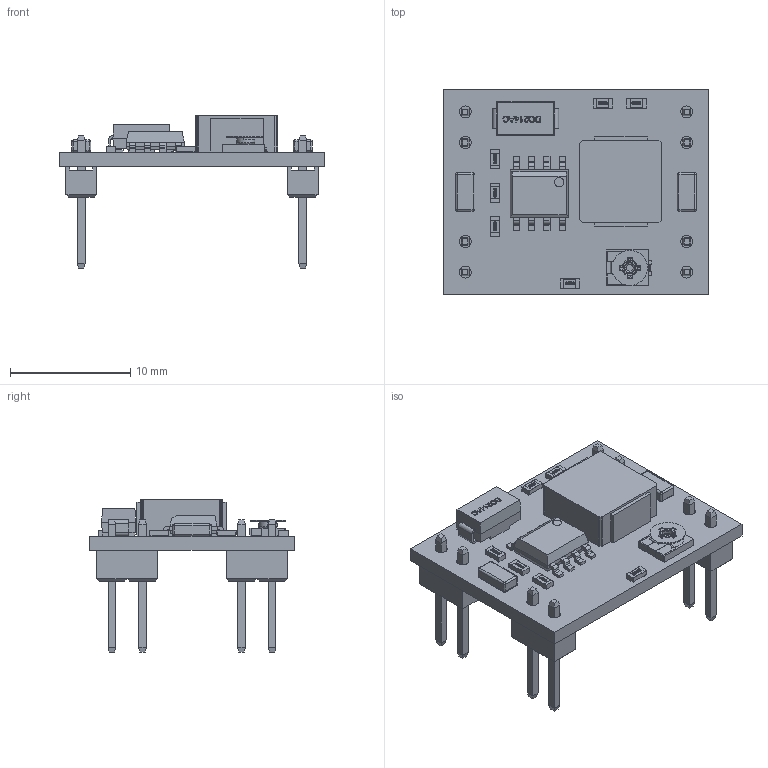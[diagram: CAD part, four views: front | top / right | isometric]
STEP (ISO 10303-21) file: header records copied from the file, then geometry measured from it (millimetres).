
FILE_DESCRIPTION (( 'STEP AP214' ), '1' );
FILE_NAME ('User Library-MP1584EN.STEP', '2020-04-08T01:45:59', ( '' ), ( '' ), 'SwSTEP 2.0', 'SolidWorks 2019', '' );
FILE_SCHEMA (( 'AUTOMOTIVE_DESIGN' ));
Length unit declared in the file: millimetre
Products named in the file (1): User Library-MP1584EN
Bounding box: 22 x 17 x 12.64 mm (x, y, z)
Volume: 810.9 mm3; surface area: 1799.7 mm2
Topology: 21 solids, 21 shells, 1338 faces, 3418 edges, 2182 vertices
Faces by surface type: plane 834, bspline 361, cylinder 127, sphere 16
Entity records: 61693 total; most frequent: CARTESIAN_POINT 29154, ORIENTED_EDGE 6804, DIRECTION 4875, EDGE_CURVE 3402, VECTOR 2361, LINE 2361, VERTEX_POINT 2184, EDGE_LOOP 1440
